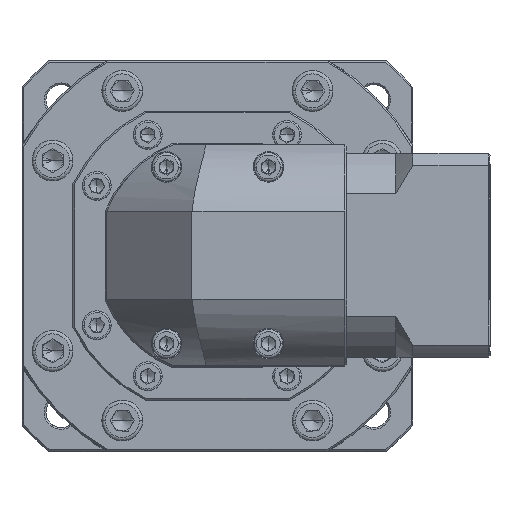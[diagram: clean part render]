
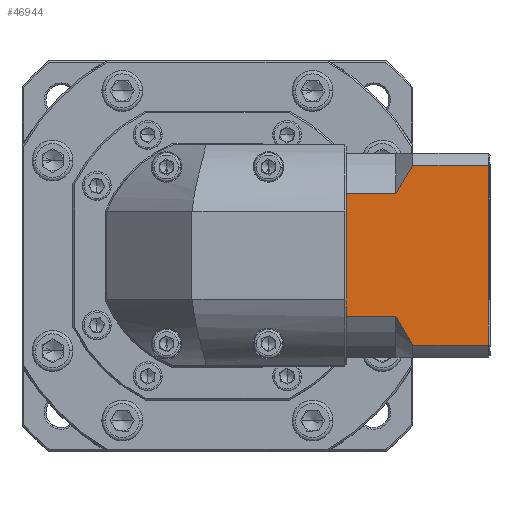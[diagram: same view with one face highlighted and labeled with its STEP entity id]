
A CAD part, top view. The second image highlights one B-rep face of the part: STEP entity #46944.
In plain terms, the highlighted planar face has unit normal (0, 0, 1).
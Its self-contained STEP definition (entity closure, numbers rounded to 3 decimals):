
#1089 = ORIENTED_EDGE ( 'NONE', *, *, #89529, .F. ) ;
#2412 = CARTESIAN_POINT ( 'NONE',  ( 129.13, 139.361, 48.568 ) ) ;
#7849 = VERTEX_POINT ( 'NONE', #125552 ) ;
#8305 = ORIENTED_EDGE ( 'NONE', *, *, #76460, .F. ) ;
#9117 = DIRECTION ( 'NONE',  ( -1., 0., 0. ) ) ;
#9384 = LINE ( 'NONE', #122233, #49805 ) ;
#14664 = CARTESIAN_POINT ( 'NONE',  ( 126.65, 135.122, 48.568 ) ) ;
#16407 = LINE ( 'NONE', #54404, #88221 ) ;
#17339 = LINE ( 'NONE', #49084, #66380 ) ;
#17873 = EDGE_CURVE ( 'NONE', #27127, #47370, #17339, .T. ) ;
#19934 = VERTEX_POINT ( 'NONE', #21622 ) ;
#20372 = CARTESIAN_POINT ( 'NONE',  ( 111.402, 145.642, 48.568 ) ) ;
#20929 = EDGE_CURVE ( 'NONE', #69059, #142801, #132495, .T. ) ;
#21622 = CARTESIAN_POINT ( 'NONE',  ( 153.102, 142.1, 48.568 ) ) ;
#24584 = PLANE ( 'NONE',  #92979 ) ;
#25973 = DIRECTION ( 'NONE',  ( 1., 0., 0. ) ) ;
#27127 = VERTEX_POINT ( 'NONE', #62291 ) ;
#27755 = CARTESIAN_POINT ( 'NONE',  ( 125.902, 97.615, 48.568 ) ) ;
#30900 = DIRECTION ( 'NONE',  ( -1., 0., 0. ) ) ;
#31115 = EDGE_CURVE ( 'NONE', #31689, #116501, #85056, .T. ) ;
#31339 = EDGE_CURVE ( 'NONE', #7849, #19934, #16407, .T. ) ;
#31534 = ORIENTED_EDGE ( 'NONE', *, *, #31339, .T. ) ;
#31687 = VECTOR ( 'NONE', #54690, 1000. ) ;
#31689 = VERTEX_POINT ( 'NONE', #27755 ) ;
#42750 = B_SPLINE_CURVE_WITH_KNOTS ( 'NONE', 3,
 ( #125281, #137985, #2412, #82253, #14664, #102749 ),
 .UNSPECIFIED., .F., .F.,
 ( 4, 2, 4 ),
 ( 0.052, 0.057, 0.062 ),
 .UNSPECIFIED. ) ;
#46944 = ADVANCED_FACE ( 'NONE', ( #72648 ), #24584, .F. ) ;
#47370 = VERTEX_POINT ( 'NONE', #89729 ) ;
#47912 = EDGE_CURVE ( 'NONE', #142801, #51511, #68554, .T. ) ;
#49084 = CARTESIAN_POINT ( 'NONE',  ( 125.902, 133.67, 48.568 ) ) ;
#49805 = VECTOR ( 'NONE', #112444, 1000. ) ;
#50286 = EDGE_CURVE ( 'NONE', #76385, #47370, #42750, .T. ) ;
#50520 = EDGE_CURVE ( 'NONE', #27127, #69059, #9384, .T. ) ;
#51511 = VERTEX_POINT ( 'NONE', #123863 ) ;
#53056 = LINE ( 'NONE', #64298, #138773 ) ;
#54404 = CARTESIAN_POINT ( 'NONE',  ( 153.102, 145.642, 48.568 ) ) ;
#54690 = DIRECTION ( 'NONE',  ( 0., -1., 0. ) ) ;
#56256 = EDGE_LOOP ( 'NONE', ( #8305, #31534, #1089, #103743, #87257, #59557, #128439, #120361, #83480, #138283 ) ) ;
#59557 = ORIENTED_EDGE ( 'NONE', *, *, #50520, .T. ) ;
#62291 = CARTESIAN_POINT ( 'NONE',  ( 111.402, 133.67, 48.568 ) ) ;
#63239 = CARTESIAN_POINT ( 'NONE',  ( 129.127, 91.927, 48.568 ) ) ;
#63723 = CARTESIAN_POINT ( 'NONE',  ( 127.453, 94.733, 48.568 ) ) ;
#64298 = CARTESIAN_POINT ( 'NONE',  ( 125.902, 89.185, 48.568 ) ) ;
#66380 = VECTOR ( 'NONE', #94089, 1000. ) ;
#68554 = LINE ( 'NONE', #20372, #31687 ) ;
#69059 = VERTEX_POINT ( 'NONE', #79496 ) ;
#69626 = CARTESIAN_POINT ( 'NONE',  ( 153.602, 145.642, 48.568 ) ) ;
#70349 = CARTESIAN_POINT ( 'NONE',  ( 111.402, 98.606, 48.568 ) ) ;
#72648 = FACE_OUTER_BOUND ( 'NONE', #56256, .T. ) ;
#76385 = VERTEX_POINT ( 'NONE', #129348 ) ;
#76460 = EDGE_CURVE ( 'NONE', #7849, #116501, #53056, .T. ) ;
#78202 = LINE ( 'NONE', #109014, #120063 ) ;
#79496 = CARTESIAN_POINT ( 'NONE',  ( 111.402, 132.679, 48.568 ) ) ;
#82253 = CARTESIAN_POINT ( 'NONE',  ( 127.454, 136.554, 48.568 ) ) ;
#83480 = ORIENTED_EDGE ( 'NONE', *, *, #92559, .F. ) ;
#85056 = B_SPLINE_CURVE_WITH_KNOTS ( 'NONE', 3,
 ( #141464, #117966, #63723, #63239, #107713, #85771 ),
 .UNSPECIFIED., .F., .F.,
 ( 4, 2, 4 ),
 ( 0.1, 0.104, 0.109 ),
 .UNSPECIFIED. ) ;
#85771 = CARTESIAN_POINT ( 'NONE',  ( 130.902, 89.185, 48.568 ) ) ;
#87257 = ORIENTED_EDGE ( 'NONE', *, *, #17873, .F. ) ;
#88174 = DIRECTION ( 'NONE',  ( 0., 1., 0. ) ) ;
#88221 = VECTOR ( 'NONE', #88174, 1000. ) ;
#89529 = EDGE_CURVE ( 'NONE', #76385, #19934, #121728, .T. ) ;
#89729 = CARTESIAN_POINT ( 'NONE',  ( 125.902, 133.67, 48.568 ) ) ;
#92559 = EDGE_CURVE ( 'NONE', #31689, #51511, #78202, .T. ) ;
#92979 = AXIS2_PLACEMENT_3D ( 'NONE', #69626, #113636, #25973 ) ;
#93118 = DIRECTION ( 'NONE',  ( 1., 0., 0. ) ) ;
#94089 = DIRECTION ( 'NONE',  ( 1., 0., 0. ) ) ;
#99223 = VECTOR ( 'NONE', #119701, 1000. ) ;
#102749 = CARTESIAN_POINT ( 'NONE',  ( 125.902, 133.67, 48.568 ) ) ;
#103743 = ORIENTED_EDGE ( 'NONE', *, *, #50286, .T. ) ;
#107713 = CARTESIAN_POINT ( 'NONE',  ( 130.001, 90.548, 48.568 ) ) ;
#109014 = CARTESIAN_POINT ( 'NONE',  ( 125.902, 97.615, 48.568 ) ) ;
#111859 = CARTESIAN_POINT ( 'NONE',  ( 130.902, 89.185, 48.568 ) ) ;
#112444 = DIRECTION ( 'NONE',  ( 0., -1., 0. ) ) ;
#113636 = DIRECTION ( 'NONE',  ( 0., 0., -1. ) ) ;
#116501 = VERTEX_POINT ( 'NONE', #111859 ) ;
#116967 = CARTESIAN_POINT ( 'NONE',  ( 125.902, 142.1, 48.568 ) ) ;
#117966 = CARTESIAN_POINT ( 'NONE',  ( 126.653, 96.158, 48.568 ) ) ;
#119701 = DIRECTION ( 'NONE',  ( 0., -1., 0. ) ) ;
#120063 = VECTOR ( 'NONE', #9117, 1000. ) ;
#120361 = ORIENTED_EDGE ( 'NONE', *, *, #47912, .T. ) ;
#121159 = CARTESIAN_POINT ( 'NONE',  ( 111.402, 145.642, 48.568 ) ) ;
#121728 = LINE ( 'NONE', #116967, #132297 ) ;
#122233 = CARTESIAN_POINT ( 'NONE',  ( 111.402, 145.642, 48.568 ) ) ;
#123863 = CARTESIAN_POINT ( 'NONE',  ( 111.402, 97.615, 48.568 ) ) ;
#125281 = CARTESIAN_POINT ( 'NONE',  ( 130.902, 142.1, 48.568 ) ) ;
#125552 = CARTESIAN_POINT ( 'NONE',  ( 153.102, 89.185, 48.568 ) ) ;
#128439 = ORIENTED_EDGE ( 'NONE', *, *, #20929, .T. ) ;
#129348 = CARTESIAN_POINT ( 'NONE',  ( 130.902, 142.1, 48.568 ) ) ;
#132297 = VECTOR ( 'NONE', #93118, 1000. ) ;
#132495 = LINE ( 'NONE', #121159, #99223 ) ;
#137985 = CARTESIAN_POINT ( 'NONE',  ( 130.003, 140.74, 48.568 ) ) ;
#138283 = ORIENTED_EDGE ( 'NONE', *, *, #31115, .T. ) ;
#138773 = VECTOR ( 'NONE', #30900, 1000. ) ;
#141464 = CARTESIAN_POINT ( 'NONE',  ( 125.902, 97.615, 48.568 ) ) ;
#142801 = VERTEX_POINT ( 'NONE', #70349 ) ;
